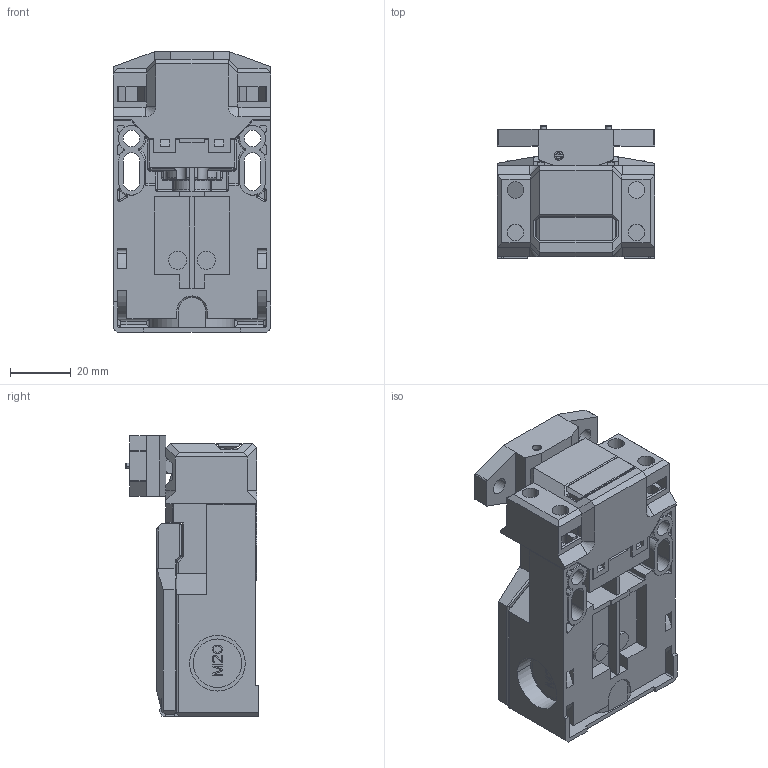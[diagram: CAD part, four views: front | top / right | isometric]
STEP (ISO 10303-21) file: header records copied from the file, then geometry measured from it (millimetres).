
FILE_DESCRIPTION((''),'2;1');
FILE_NAME('SK_U1Z_MRU_SW0001','2011-05-11T',('T.Romberg'),(''),'PRO/ENGINEER BY PARAMETRIC TECHNOLOGY CORPORATION, 2005070','PRO/ENGINEER BY PARAMETRIC TECHNOLOGY CORPORATION, 2005070','');
FILE_SCHEMA(('AUTOMOTIVE_DESIGN_CC2 { 1 2 10303 214 -1 1 5 2 }'));
Products named in the file (1): SK_U1Z_MRU_SW0001
Bounding box: 52 x 43.8 x 92.6 mm (x, y, z)
Surface area: 61013.6 mm2 (no closed solid volume)
Topology: 0 solids, 30 shells, 1870 faces, 5746 edges, 3867 vertices
Faces by surface type: plane 992, cylinder 625, sphere 74, torus 69, bspline 67, cone 43
Entity records: 101879 total; most frequent: CARTESIAN_POINT 18336, ORIENTED_EDGE 10426, DIRECTION 10348, PRESENTATION_STYLE_ASSIGNMENT 7625, STYLED_ITEM 5755, CURVE_STYLE 5744, EDGE_CURVE 5744, VECTOR 4006
